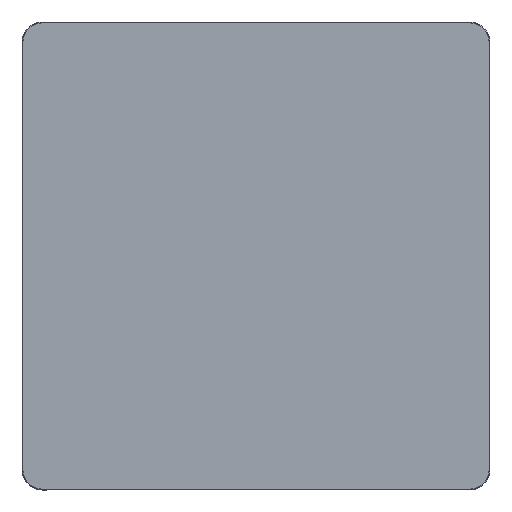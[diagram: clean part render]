
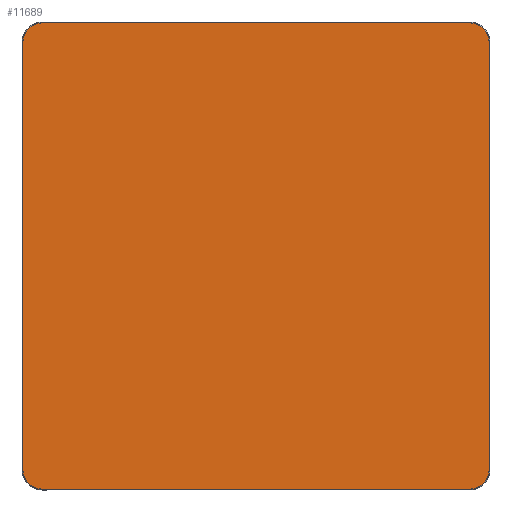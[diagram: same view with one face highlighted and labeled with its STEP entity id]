
A CAD part, top view. The second image highlights one B-rep face of the part: STEP entity #11689.
In plain terms, the highlighted planar face has unit normal (0, 0, 1).
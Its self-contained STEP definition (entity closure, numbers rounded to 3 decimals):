
#11614=CARTESIAN_POINT('',(0.,0.,20.));
#11615=DIRECTION('',(1.,0.,0.));
#11616=DIRECTION('',(0.,0.,1.));
#11617=AXIS2_PLACEMENT_3D('',#11614,#11616,#11615);
#11618=PLANE('',#11617);
#11619=CARTESIAN_POINT('',(-365.,-398.5,20.));
#11620=VERTEX_POINT('',#11619);
#11621=CARTESIAN_POINT('',(365.,-398.5,20.));
#11622=VERTEX_POINT('',#11621);
#11623=CARTESIAN_POINT('',(-365.,-398.5,20.));
#11624=DIRECTION('',(1.,0.,0.));
#11625=VECTOR('',#11624,730.);
#11626=LINE('',#11623,#11625);
#11627=EDGE_CURVE('',#11620,#11622,#11626,.T.);
#11628=ORIENTED_EDGE('E105',*,*,#11627,.T.);
#11629=CARTESIAN_POINT('',(398.5,-365.,20.));
#11630=VERTEX_POINT('',#11629);
#11631=CARTESIAN_POINT('',(365.,-365.,20.));
#11632=DIRECTION('',(0.,-1.,0.));
#11633=DIRECTION('',(0.,0.,1.));
#11634=AXIS2_PLACEMENT_3D('',#11631,#11633,#11632);
#11635=CIRCLE('',#11634,33.5);
#11636=EDGE_CURVE('',#11622,#11630,#11635,.T.);
#11637=ORIENTED_EDGE('E107',*,*,#11636,.T.);
#11638=CARTESIAN_POINT('',(398.5,365.,20.));
#11639=VERTEX_POINT('',#11638);
#11640=CARTESIAN_POINT('',(398.5,-365.,20.));
#11641=DIRECTION('',(0.,1.,0.));
#11642=VECTOR('',#11641,730.);
#11643=LINE('',#11640,#11642);
#11644=EDGE_CURVE('',#11630,#11639,#11643,.T.);
#11645=ORIENTED_EDGE('E109',*,*,#11644,.T.);
#11646=CARTESIAN_POINT('',(365.,398.5,20.));
#11647=VERTEX_POINT('',#11646);
#11648=CARTESIAN_POINT('',(365.,365.,20.));
#11649=DIRECTION('',(1.,0.,0.));
#11650=DIRECTION('',(0.,0.,1.));
#11651=AXIS2_PLACEMENT_3D('',#11648,#11650,#11649);
#11652=CIRCLE('',#11651,33.5);
#11653=EDGE_CURVE('',#11639,#11647,#11652,.T.);
#11654=ORIENTED_EDGE('E111',*,*,#11653,.T.);
#11655=CARTESIAN_POINT('',(-365.,398.5,20.));
#11656=VERTEX_POINT('',#11655);
#11657=CARTESIAN_POINT('',(365.,398.5,20.));
#11658=DIRECTION('',(-1.,0.,0.));
#11659=VECTOR('',#11658,730.);
#11660=LINE('',#11657,#11659);
#11661=EDGE_CURVE('',#11647,#11656,#11660,.T.);
#11662=ORIENTED_EDGE('E113',*,*,#11661,.T.);
#11663=CARTESIAN_POINT('',(-398.5,365.,20.));
#11664=VERTEX_POINT('',#11663);
#11665=CARTESIAN_POINT('',(-365.,365.,20.));
#11666=DIRECTION('',(0.,1.,0.));
#11667=DIRECTION('',(0.,0.,1.));
#11668=AXIS2_PLACEMENT_3D('',#11665,#11667,#11666);
#11669=CIRCLE('',#11668,33.5);
#11670=EDGE_CURVE('',#11656,#11664,#11669,.T.);
#11671=ORIENTED_EDGE('E115',*,*,#11670,.T.);
#11672=CARTESIAN_POINT('',(-398.5,-365.,20.));
#11673=VERTEX_POINT('',#11672);
#11674=CARTESIAN_POINT('',(-398.5,365.,20.));
#11675=DIRECTION('',(0.,-1.,0.));
#11676=VECTOR('',#11675,730.);
#11677=LINE('',#11674,#11676);
#11678=EDGE_CURVE('',#11664,#11673,#11677,.T.);
#11679=ORIENTED_EDGE('E117',*,*,#11678,.T.);
#11680=CARTESIAN_POINT('',(-365.,-365.,20.));
#11681=DIRECTION('',(-1.,0.,0.));
#11682=DIRECTION('',(0.,0.,1.));
#11683=AXIS2_PLACEMENT_3D('',#11680,#11682,#11681);
#11684=CIRCLE('',#11683,33.5);
#11685=EDGE_CURVE('',#11673,#11620,#11684,.T.);
#11686=ORIENTED_EDGE('E119',*,*,#11685,.T.);
#11687=EDGE_LOOP('',(#11628,#11637,#11645,#11654,#11662,#11671,#11679,#11686));
#11688=FACE_OUTER_BOUND('',#11687,.T.);
#11689=ADVANCED_FACE('F2',(#11688),#11618,.T.);
